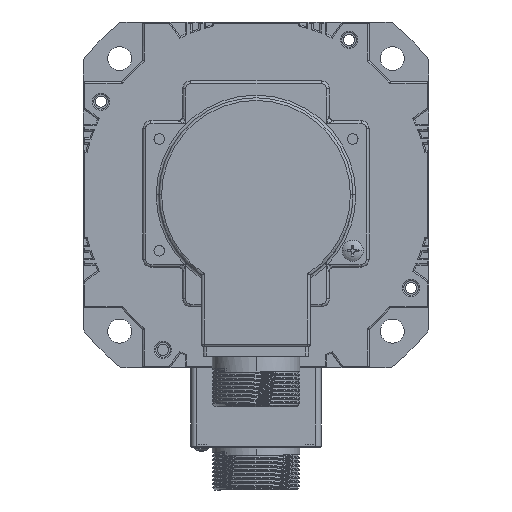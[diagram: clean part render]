
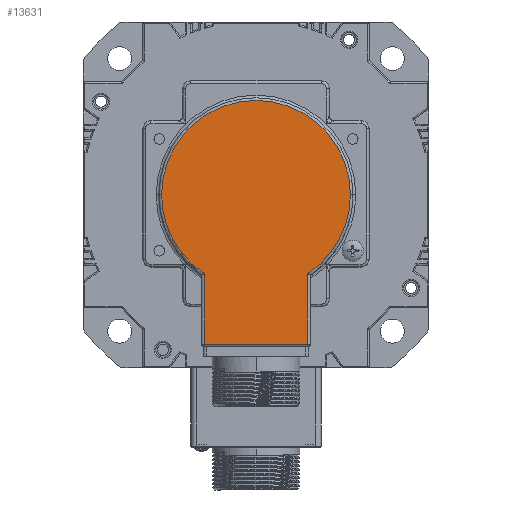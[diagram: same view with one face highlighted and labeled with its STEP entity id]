
A CAD part, front view. The second image highlights one B-rep face of the part: STEP entity #13631.
In plain terms, the highlighted planar face has unit normal (0, -1, 0) as drawn and (0, 0, -1) by its records, which use the part's own axes.
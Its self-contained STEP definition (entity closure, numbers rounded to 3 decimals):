
#11 = CARTESIAN_POINT ( 'NONE',  ( 0., 0., -33. ) ) ;
#2011 = EDGE_CURVE ( 'NONE', #27578, #31941, #36554, .T. ) ;
#6363 = AXIS2_PLACEMENT_3D ( 'NONE', #38593, #15605, #10358 ) ;
#7718 = ORIENTED_EDGE ( 'NONE', *, *, #63103, .T. ) ;
#9315 = AXIS2_PLACEMENT_3D ( 'NONE', #18167, #18413, #29972 ) ;
#9381 = DIRECTION ( 'NONE',  ( -1., 0., 0. ) ) ;
#10204 = LINE ( 'NONE', #73180, #25365 ) ;
#10358 = DIRECTION ( 'NONE',  ( -1., 0., 0. ) ) ;
#10732 = DIRECTION ( 'NONE',  ( 0., 0., -1. ) ) ;
#11147 = CARTESIAN_POINT ( 'NONE',  ( -35.5, 0., -33. ) ) ;
#11478 = VECTOR ( 'NONE', #21811, 1000. ) ;
#12211 = CARTESIAN_POINT ( 'NONE',  ( 19.5, 30.199, -33. ) ) ;
#13631 = ADVANCED_FACE ( 'NONE', ( #63335 ), #22440, .T. ) ;
#15605 = DIRECTION ( 'NONE',  ( 0., 0., -1. ) ) ;
#16209 = DIRECTION ( 'NONE',  ( 0., 1., 0. ) ) ;
#17287 = CARTESIAN_POINT ( 'NONE',  ( -19.5, 29.665, -33. ) ) ;
#18167 = CARTESIAN_POINT ( 'NONE',  ( 0., 0., -33. ) ) ;
#18413 = DIRECTION ( 'NONE',  ( 0., 0., -1. ) ) ;
#18597 = LINE ( 'NONE', #72776, #11478 ) ;
#21811 = DIRECTION ( 'NONE',  ( 1., 0., 0. ) ) ;
#22440 = PLANE ( 'NONE',  #42068 ) ;
#24328 = AXIS2_PLACEMENT_3D ( 'NONE', #68642, #39679, #9381 ) ;
#24358 = VECTOR ( 'NONE', #69890, 1000. ) ;
#25365 = VECTOR ( 'NONE', #16209, 1000. ) ;
#25506 = CARTESIAN_POINT ( 'NONE',  ( -19.5, 56.15, -33. ) ) ;
#26026 = VERTEX_POINT ( 'NONE', #71410 ) ;
#26729 = ORIENTED_EDGE ( 'NONE', *, *, #63205, .T. ) ;
#27578 = VERTEX_POINT ( 'NONE', #69164 ) ;
#28557 = VERTEX_POINT ( 'NONE', #17287 ) ;
#29972 = DIRECTION ( 'NONE',  ( -1., 0., 0. ) ) ;
#31941 = VERTEX_POINT ( 'NONE', #11147 ) ;
#33315 = ORIENTED_EDGE ( 'NONE', *, *, #61942, .T. ) ;
#36554 = CIRCLE ( 'NONE', #24328, 35.5 ) ;
#38361 = EDGE_CURVE ( 'NONE', #49279, #71028, #18597, .T. ) ;
#38593 = CARTESIAN_POINT ( 'NONE',  ( 0., 0., -33. ) ) ;
#38791 = CARTESIAN_POINT ( 'NONE',  ( 19.5, 56.15, -33. ) ) ;
#39679 = DIRECTION ( 'NONE',  ( 0., 0., -1. ) ) ;
#39815 = ORIENTED_EDGE ( 'NONE', *, *, #38361, .T. ) ;
#40314 = CIRCLE ( 'NONE', #6363, 35.5 ) ;
#41802 = EDGE_CURVE ( 'NONE', #28557, #49279, #10204, .T. ) ;
#42068 = AXIS2_PLACEMENT_3D ( 'NONE', #11, #10732, #50699 ) ;
#49279 = VERTEX_POINT ( 'NONE', #25506 ) ;
#50699 = DIRECTION ( 'NONE',  ( 0., -1., 0. ) ) ;
#51197 = LINE ( 'NONE', #12211, #24358 ) ;
#51510 = ORIENTED_EDGE ( 'NONE', *, *, #2011, .T. ) ;
#61942 = EDGE_CURVE ( 'NONE', #31941, #28557, #40314, .T. ) ;
#61951 = CIRCLE ( 'NONE', #9315, 35.5 ) ;
#63103 = EDGE_CURVE ( 'NONE', #71028, #26026, #51197, .T. ) ;
#63205 = EDGE_CURVE ( 'NONE', #26026, #27578, #61951, .T. ) ;
#63241 = EDGE_LOOP ( 'NONE', ( #73365, #39815, #7718, #26729, #51510, #33315 ) ) ;
#63335 = FACE_OUTER_BOUND ( 'NONE', #63241, .T. ) ;
#68642 = CARTESIAN_POINT ( 'NONE',  ( 0., 0., -33. ) ) ;
#69164 = CARTESIAN_POINT ( 'NONE',  ( 35.5, 0., -33. ) ) ;
#69890 = DIRECTION ( 'NONE',  ( 0., -1., 0. ) ) ;
#71028 = VERTEX_POINT ( 'NONE', #38791 ) ;
#71410 = CARTESIAN_POINT ( 'NONE',  ( 19.5, 29.665, -33. ) ) ;
#72776 = CARTESIAN_POINT ( 'NONE',  ( 20.5, 56.15, -33. ) ) ;
#73180 = CARTESIAN_POINT ( 'NONE',  ( -19.5, 57.15, -33. ) ) ;
#73365 = ORIENTED_EDGE ( 'NONE', *, *, #41802, .T. ) ;
